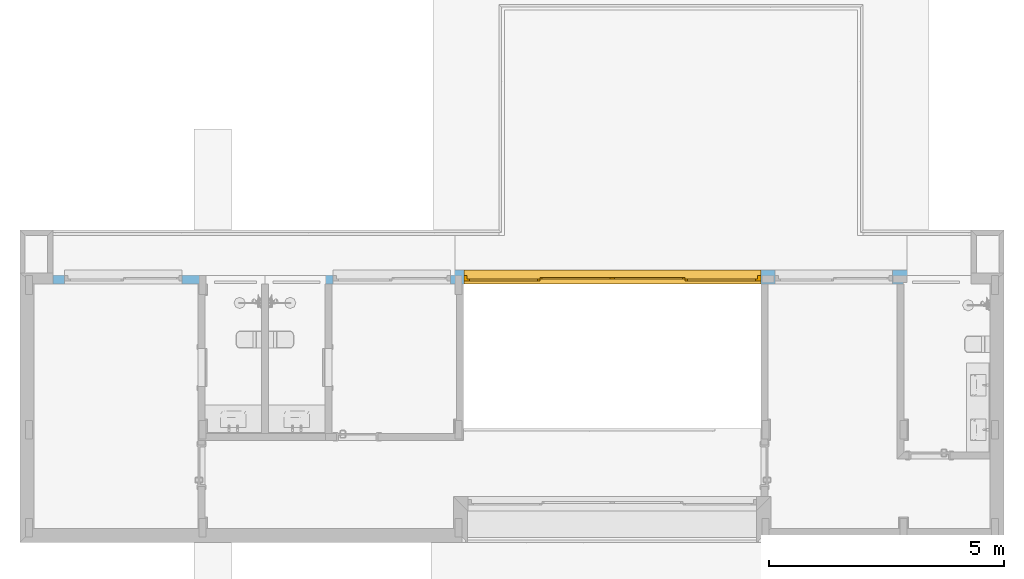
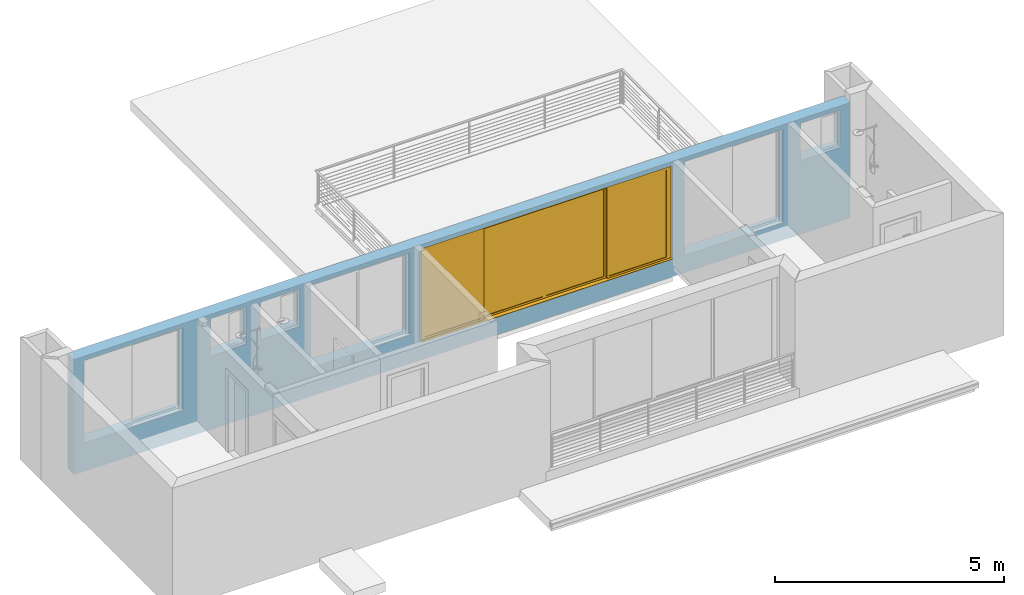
# One storey, part 17 of 24: 1 door, 7 openings, plus 1 element that does not belong to this part.
"""IFC2X3 building model written with IfcOpenShell, lengths in millimetres."""

import ifcopenshell
import ifcopenshell.guid

model = None  # the IFC model being written
_history = None  # IfcOwnerHistory: only IFC2X3 demands one
_inside = {}  # id of a spatial element -> (the spatial element, [elements in it])
_under = {}  # id of a project, library or spatial element -> (it, [spatial elements below it])
_declared = {}  # id of a project -> (the project, [libraries it declares])
_typed = {}  # id of a type object -> (the type object, [elements of that type])
_made_of = {}  # id of a material, layer set ... -> (it, [elements and type objects made of it])


def new_model(schema):
    """Start an empty IFC model of exactly this schema.

    Asked for "IFC4X3", IfcOpenShell would pick the latest addendum, in which some entities
    have other attributes; the version numbers below select the first issue.
    IFC2X3 requires an IfcOwnerHistory on every rooted entity: one is made here for all.
    """
    global model, _history
    if schema == "IFC4X3":
        model = ifcopenshell.file(schema_version=(4, 3, 0, 0))
    else:
        model = ifcopenshell.file(schema=schema)
    _inside.clear()
    _under.clear()
    _declared.clear()
    _typed.clear()
    _made_of.clear()
    _history = None
    if model.schema == "IFC2X3":
        org = make("IfcOrganization", Name="unknown")
        user = make(
            "IfcPersonAndOrganization",
            ThePerson=make("IfcPerson", FamilyName="unknown"),
            TheOrganization=org,
        )
        app = make(
            "IfcApplication",
            ApplicationDeveloper=org,
            Version="unknown",
            ApplicationFullName="unknown",
            ApplicationIdentifier="unknown",
        )
        _history = make(
            "IfcOwnerHistory",
            OwningUser=user,
            OwningApplication=app,
            ChangeAction="ADDED",
            CreationDate=0,
        )
    return model


def make(cls, **values):
    """One entity of the class cls with the attributes given. An attribute that is None is left unset."""
    return model.create_entity(
        cls, **{name: value for name, value in values.items() if value is not None}
    )


def entity(cls, *values):
    """Any entity or typed value of the class cls, its attributes in the order of the schema. None: left unset."""
    e = model.create_entity(cls)
    for i, value in enumerate(values):
        if value is not None:
            e[i] = value
    return e


def rooted(cls, **values):
    """An entity with a GlobalId (a new one), such as an element, a storey or a relation."""
    return make(cls, GlobalId=ifcopenshell.guid.new(), OwnerHistory=_history, **values)


def si_unit(unit_type, name, prefix=None):
    """IfcSIUnit, for example si_unit("LENGTHUNIT", "METRE", prefix="MILLI")."""
    return make("IfcSIUnit", UnitType=unit_type, Prefix=prefix, Name=name)


def converted_unit(unit_type, name, factor, base, dimensions=None, offset=None):
    """IfcConversionBasedUnit, such as the inch: factor (a typed value) times the base unit."""
    return make(
        "IfcConversionBasedUnit"
        if offset is None
        else "IfcConversionBasedUnitWithOffset",
        ConversionOffset=offset,
        Dimensions=None
        if dimensions is None
        else entity("IfcDimensionalExponents", *dimensions),
        UnitType=unit_type,
        Name=name,
        ConversionFactor=make(
            "IfcMeasureWithUnit", ValueComponent=factor, UnitComponent=base
        ),
    )


def money_unit(currency):
    """IfcMonetaryUnit."""
    return make("IfcMonetaryUnit", Currency=currency)


def assignment(units):
    """IfcUnitAssignment: the units of a project."""
    return None if units is None else make("IfcUnitAssignment", Units=units)


def point(xyz):
    """IfcCartesianPoint."""
    return None if xyz is None else make("IfcCartesianPoint", Coordinates=xyz)


def direction(xyz):
    """IfcDirection."""
    return None if xyz is None else make("IfcDirection", DirectionRatios=xyz)


def frame(location, z_axis=None, x_axis=None):
    """IfcAxis2Placement3D, a coordinate frame: its origin and axes. An axis left out is left unset."""
    return make(
        "IfcAxis2Placement3D",
        Location=point(location),
        Axis=direction(z_axis),
        RefDirection=direction(x_axis),
    )


def frame_2d(location, x_axis=None):
    """IfcAxis2Placement2D, a coordinate frame in the plane: its origin and x axis."""
    return make(
        "IfcAxis2Placement2D", Location=point(location), RefDirection=direction(x_axis)
    )


def origin_with_axes():
    """The frame at (0, 0, 0) with the z axis (0, 0, 1) and the x axis (1, 0, 0) written out."""
    return frame((0.0, 0.0, 0.0), z_axis=(0.0, 0.0, 1.0), x_axis=(1.0, 0.0, 0.0))


def origin_2d_with_axis():
    """The frame at (0, 0) in the plane with the x axis (1, 0) written out."""
    return frame_2d((0.0, 0.0), x_axis=(1.0, 0.0))


def place(relative_to, where):
    """IfcLocalPlacement: puts the frame where relative to a parent placement (None: the world)."""
    return make(
        "IfcLocalPlacement", PlacementRelTo=relative_to, RelativePlacement=where
    )


def context(
    kind, dimensions, precision=None, world=None, true_north=None, identifier=None
):
    """IfcGeometricRepresentationContext, for example the 3D "Model" context."""
    return make(
        "IfcGeometricRepresentationContext",
        ContextIdentifier=identifier,
        ContextType=kind,
        CoordinateSpaceDimension=dimensions,
        Precision=precision,
        WorldCoordinateSystem=world,
        TrueNorth=true_north,
    )


def subcontext(parent, identifier, kind, view, scale=None):
    """IfcGeometricRepresentationSubContext, for example "Body" below "Model"."""
    return make(
        "IfcGeometricRepresentationSubContext",
        ContextIdentifier=identifier,
        ContextType=kind,
        ParentContext=parent,
        TargetScale=scale,
        TargetView=view,
    )


def project(units=None, contexts=None):
    """IfcProject with its units and contexts."""
    return rooted(
        "IfcProject",
        Name="project",
        RepresentationContexts=contexts,
        UnitsInContext=assignment(units),
    )


def spatial(cls, under=None, at=None, **own):
    """A site, building, storey or space (cls), placed at a placement, below another one or the project."""
    s = rooted(cls, ObjectPlacement=at, **own)
    if under is not None:
        _under.setdefault(under.id(), (under, []))[1].append(s)
    return s


def polyline(points):
    """IfcPolyline through the points."""
    return make("IfcPolyline", Points=[point(p) for p in points])


def profile(cls, at=None, kind="AREA", **sizes):
    """A parametric profile (cls). Its sizes go by their IFC names, for example OverallWidth=200.0."""
    return make(cls, ProfileType=kind, Position=at, **sizes)


def rectangle(**sizes):
    """IfcRectangleProfileDef."""
    return profile("IfcRectangleProfileDef", **sizes)


def outline(outer, holes=None, kind="AREA"):
    """IfcArbitraryClosedProfileDef: a profile drawn as a closed curve; with holes, ...WithVoids."""
    if holes is None:
        return make("IfcArbitraryClosedProfileDef", ProfileType=kind, OuterCurve=outer)
    return make(
        "IfcArbitraryProfileDefWithVoids",
        ProfileType=kind,
        OuterCurve=outer,
        InnerCurves=holes,
    )


def extrude(swept, where, along, depth):
    """IfcExtrudedAreaSolid: the profile swept, set in the frame where, extruded along a direction by depth."""
    return make(
        "IfcExtrudedAreaSolid",
        SweptArea=swept,
        Position=where,
        ExtrudedDirection=direction(along),
        Depth=depth,
    )


def faces_of(points, faces, orient=None, outer=None):
    """IfcFace entities. A face is a list of loops; a loop is a list of indices into points, from 0.

    orient and outer hold one flag for each loop. By default every Orientation is true, the
    first loop of a face is its IfcFaceOuterBound and the others are IfcFaceBound.
    """
    made = []
    for i, loops in enumerate(faces):
        bounds = []
        for j, loop in enumerate(loops):
            is_outer = j == 0 if outer is None else outer[i][j]
            bounds.append(
                make(
                    "IfcFaceOuterBound" if is_outer else "IfcFaceBound",
                    Bound=make("IfcPolyLoop", Polygon=[points[k] for k in loop]),
                    Orientation=True if orient is None else orient[i][j],
                )
            )
        made.append(make("IfcFace", Bounds=bounds))
    return made


def open_shell(faces, orient=None, outer=None):
    """The faces of one IfcOpenShell. surface_model builds it on its shared points."""
    return ("IfcOpenShell", faces, orient, outer)


def faceted_brep(points, faces, orient=None, outer=None, voids=None):
    """IfcFacetedBrep: a solid bounded by flat faces; with voids (closed shells), ...WithVoids."""
    shared = [point(p) for p in points]
    hull = make("IfcClosedShell", CfsFaces=faces_of(shared, faces, orient, outer))
    if voids is None:
        return make("IfcFacetedBrep", Outer=hull)
    return make(
        "IfcFacetedBrepWithVoids",
        Outer=hull,
        Voids=[
            make(cls, CfsFaces=faces_of(shared, fs, o, b)) for cls, fs, o, b in voids
        ],
    )


def surface_model(cls, points, shells):
    """IfcFaceBasedSurfaceModel or IfcShellBasedSurfaceModel (cls): surfaces that need not close."""
    shared = [point(p) for p in points]
    made = [make(c, CfsFaces=faces_of(shared, fs, o, b)) for c, fs, o, b in shells]
    if cls == "IfcFaceBasedSurfaceModel":
        return make(cls, FbsmFaces=made)
    return make(cls, SbsmBoundary=made)


def shape(context_of_items, identifier, shape_type, items):
    """IfcShapeRepresentation: the items that make up one representation, for example the "Body"."""
    return make(
        "IfcShapeRepresentation",
        ContextOfItems=context_of_items,
        RepresentationIdentifier=identifier,
        RepresentationType=shape_type,
        Items=items,
    )


def material(Name=None, Category=None):
    """IfcMaterial."""
    return make("IfcMaterial", Name=Name, Category=Category)


def material_list(materials):
    """IfcMaterialList."""
    return make("IfcMaterialList", Materials=materials)


def layer(
    of_material, thickness, ventilated=None, Name=None, Category=None, Priority=None
):
    """IfcMaterialLayer: one layer of a wall or slab, of a material (None: an air gap)."""
    return make(
        "IfcMaterialLayer",
        Material=of_material,
        LayerThickness=thickness,
        IsVentilated=ventilated,
        Name=Name,
        Category=Category,
        Priority=Priority,
    )


def layer_set(layers, Name=None):
    """IfcMaterialLayerSet."""
    return make("IfcMaterialLayerSet", MaterialLayers=layers, LayerSetName=Name)


def layer_usage(for_layer_set, set_direction, sense, offset, extent=None):
    """IfcMaterialLayerSetUsage: how a layer set lies in its element."""
    return make(
        "IfcMaterialLayerSetUsage",
        ForLayerSet=for_layer_set,
        LayerSetDirection=set_direction,
        DirectionSense=sense,
        OffsetFromReferenceLine=offset,
        ReferenceExtent=extent,
    )


def made_of(thing, what):
    """Note that an element or type object is made of a material, layer set ...; save() writes the relation."""
    if what is not None:
        _made_of.setdefault(what.id(), (what, []))[1].append(thing)
    return thing


def type_object(cls, material=None, **own):
    """A type object (cls), such as IfcWallType, which elements share."""
    return made_of(rooted(cls, **own), material)


def element(
    cls,
    number,
    at=None,
    inside=None,
    cuts=None,
    type_object=None,
    material=None,
    context=None,
    identifier="Body",
    shape_type=None,
    held_by="IfcProductDefinitionShape",
    body=None,
    shapes=None,
    **own,
):
    """One element of the class cls, such as IfcWall. Its Tag is "e" and its number.

    at: its placement. inside: the storey or other place that contains it. cuts: it is an
    opening in that element (IfcRelVoidsElement). A single representation is given by context,
    identifier, shape_type and body (its items); several are given by shapes. held_by: the class
    of the entity that holds the representations. save() writes the other relations.
    """
    e = rooted(cls, Tag="e%d" % number, ObjectPlacement=at, **own)
    if body is not None:
        shapes = [shape(context, identifier, shape_type, body)]
    if shapes is not None:
        e.Representation = make(held_by, Representations=shapes)
    if inside is not None:
        _inside.setdefault(inside.id(), (inside, []))[1].append(e)
    if cuts is not None:
        rooted(
            "IfcRelVoidsElement", RelatingBuildingElement=cuts, RelatedOpeningElement=e
        )
    if type_object is not None:
        _typed.setdefault(type_object.id(), (type_object, []))[1].append(e)
    return made_of(e, material)


def fill(opening, filler):
    """IfcRelFillsElement: the door or window that sits in an opening."""
    return rooted(
        "IfcRelFillsElement",
        RelatingOpeningElement=opening,
        RelatedBuildingElement=filler,
    )


def aggregate(whole, parts):
    """IfcRelAggregates: a whole, such as a stair, and the parts it consists of."""
    return rooted("IfcRelAggregates", RelatingObject=whole, RelatedObjects=parts)


def save(model, path):
    """Write the relations noted so far, then the file.

    IfcRelAggregates (storeys below a building ...), IfcRelContainedInSpatialStructure (elements
    in a storey), IfcRelDefinesByType, IfcRelAssociatesMaterial and IfcRelDeclares: one each for
    every whole, place, type object, material and project.
    """
    for whole, parts in _under.values():
        aggregate(whole, parts)
    for where, things in _inside.values():
        rooted(
            "IfcRelContainedInSpatialStructure",
            RelatedElements=things,
            RelatingStructure=where,
        )
    for kind, things in _typed.values():
        rooted("IfcRelDefinesByType", RelatedObjects=things, RelatingType=kind)
    for what, things in _made_of.values():
        rooted("IfcRelAssociatesMaterial", RelatedObjects=things, RelatingMaterial=what)
    for by, libraries in _declared.values():
        rooted("IfcRelDeclares", RelatingContext=by, RelatedDefinitions=libraries)
    model.write(path)


model = new_model("IFC2X3")

# Units and contexts
model_context = context("Model", 3, precision=1e-05, world=origin_with_axes(), true_north=direction((0.0, 1.0)))
body_context = subcontext(model_context, "Body", "Model", "MODEL_VIEW")
ifc_project = project(units=[si_unit("LENGTHUNIT", "METRE", prefix="MILLI"), si_unit("AREAUNIT", "SQUARE_METRE"), si_unit("VOLUMEUNIT", "CUBIC_METRE"), converted_unit("PLANEANGLEUNIT", "DEGREE", entity("IfcPlaneAngleMeasure", 0.0174532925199), si_unit("PLANEANGLEUNIT", "RADIAN"), dimensions=[0, 0, 0, 0, 0, 0, 0]), si_unit("SOLIDANGLEUNIT", "STERADIAN"), money_unit("USD"), converted_unit("TIMEUNIT", "Year", entity("IfcTimeMeasure", 31556926.0), si_unit("TIMEUNIT", "SECOND"), dimensions=[0, 0, 0, 0, 0, 0, 0]), si_unit("MASSUNIT", "GRAM"), si_unit("THERMODYNAMICTEMPERATUREUNIT", "DEGREE_CELSIUS"), si_unit("LUMINOUSINTENSITYUNIT", "LUMEN")], contexts=[model_context])

# Site, building, storey
site_placement = place(None, origin_with_axes())
site = spatial("IfcSite", under=ifc_project, at=site_placement, Name="Grove Residential", CompositionType="ELEMENT")
building_placement = place(site_placement, origin_with_axes())
building = spatial("IfcBuilding", under=site, at=building_placement, Name="Building", CompositionType="ELEMENT")
storey_placement = place(building_placement, frame((0.0, 0.0, 3740.0), z_axis=(0.0, 0.0, 1.0), x_axis=(1.0, 0.0, 0.0)))
storey = spatial("IfcBuildingStorey", under=building, at=storey_placement, Name="First Floor", CompositionType="ELEMENT", Elevation=3740.0)

# Wall, openings, door
ifc_material_1 = material(Name="External Render")
ifc_layer_1 = layer(ifc_material_1, 20.0, ventilated="UNKNOWN")
ifc_material_2 = material(Name="Cement Board")
ifc_layer_2 = layer(ifc_material_2, 10.0, ventilated="UNKNOWN")
ifc_material_3 = material(Name="Air Space")
ifc_layer_3 = layer(ifc_material_3, 35.0, ventilated="UNKNOWN")
ifc_material_4 = material(Name="Insulation - Plastic Soft")
ifc_layer_4 = layer(ifc_material_4, 50.0, ventilated="UNKNOWN")
ifc_material_5 = material(Name="Concrete Block")
ifc_layer_5 = layer(ifc_material_5, 150.0, ventilated="UNKNOWN")
ifc_material_6 = material(Name="Air Space - Fixing Zone")
ifc_layer_6 = layer(ifc_material_6, 10.0, ventilated="UNKNOWN")
ifc_material_7 = material(Name="Gypsum Plasterboard")
ifc_layer_7 = layer(ifc_material_7, 12.5, ventilated="UNKNOWN")
ifc_layer_8 = layer(ifc_material_7, 12.5, ventilated="UNKNOWN")
ifc_layer_set = layer_set([ifc_layer_1, ifc_layer_2, ifc_layer_3, ifc_layer_4, ifc_layer_5, ifc_layer_6, ifc_layer_7, ifc_layer_8], Name="EWF - 001")
ifc_layer_usage = layer_usage(ifc_layer_set, "AXIS2", "POSITIVE", -115.0)
wall_type = type_object("IfcWallType", Name="EWF - 001 300", PredefinedType="NOTDEFINED")
wall_placement = place(storey_placement, frame((11550.0, 7035.0, -360.0), z_axis=(0.0, 0.0, 1.0), x_axis=(-1.0, 0.0, 0.0)))
wall = element("IfcWallStandardCase", 1, at=wall_placement, inside=storey, type_object=wall_type, material=ifc_layer_usage, Name="SW - 004", context=body_context, shape_type="SweptSolid", body=[
    extrude(outline(polyline([(0.0, -115.0), (19550.0, -115.0), (19550.0, 185.0), (0.0, 185.0), (0.0, -115.0)])), origin_with_axes(), (0.0, 0.0, 1.0), 3070.0),
])
opening_1_placement = place(wall_placement, frame((750.0, 0.0, 1960.0), z_axis=(0.0, 0.0, 1.0), x_axis=(1.0, 0.0, 0.0)))
element("IfcOpeningElement", 2, at=opening_1_placement, cuts=wall, Name="W.03", context=body_context, shape_type="SweptSolid", body=[
    extrude(rectangle(XDim=1000.0, YDim=1000.0, at=origin_2d_with_axis()), frame((0.0, 120.0, 500.0), z_axis=(0.0, 1.0, 0.0), x_axis=(1.0, 0.0, 0.0)), (0.0, 0.0, -1.0), 535.0),
    extrude(rectangle(XDim=1000.0, YDim=1000.0, at=origin_2d_with_axis()), frame((0.0, 120.0, 500.0), z_axis=(0.0, -1.0, 0.0), x_axis=(1.0, 0.0, 0.0)), (0.0, 0.0, -1.0), 365.0),
])
opening_2_placement = place(wall_placement, frame((14360.0, 0.0, 1960.0), z_axis=(0.0, 0.0, 1.0), x_axis=(1.0, 0.0, 0.0)))
element("IfcOpeningElement", 3, at=opening_2_placement, cuts=wall, Name="W.03", context=body_context, shape_type="SweptSolid", body=[
    extrude(rectangle(XDim=1000.0, YDim=1000.0, at=origin_2d_with_axis()), frame((0.0, 120.0, 500.0), z_axis=(0.0, 1.0, 0.0), x_axis=(1.0, 0.0, 0.0)), (0.0, 0.0, -1.0), 535.0),
    extrude(rectangle(XDim=1000.0, YDim=1000.0, at=origin_2d_with_axis()), frame((0.0, 120.0, 500.0), z_axis=(0.0, -1.0, 0.0), x_axis=(1.0, 0.0, 0.0)), (0.0, 0.0, -1.0), 365.0),
])
opening_3_placement = place(wall_placement, frame((15660.0, 0.0, 1960.0), z_axis=(0.0, 0.0, 1.0), x_axis=(1.0, 0.0, 0.0)))
element("IfcOpeningElement", 4, at=opening_3_placement, cuts=wall, Name="W.02", context=body_context, shape_type="SweptSolid", body=[
    extrude(rectangle(XDim=900.0, YDim=1000.0, at=origin_2d_with_axis()), frame((0.0, 120.0, 500.0), z_axis=(0.0, 1.0, 0.0), x_axis=(1.0, 0.0, 0.0)), (0.0, 0.0, -1.0), 535.0),
    extrude(rectangle(XDim=900.0, YDim=1000.0, at=origin_2d_with_axis()), frame((0.0, 120.0, 500.0), z_axis=(0.0, -1.0, 0.0), x_axis=(1.0, 0.0, 0.0)), (0.0, 0.0, -1.0), 365.0),
])
opening_4_placement = place(wall_placement, frame((18050.0, 0.0, 760.0), z_axis=(0.0, 0.0, 1.0), x_axis=(1.0, 0.0, 0.0)))
element("IfcOpeningElement", 5, at=opening_4_placement, cuts=wall, Name="D.06", context=body_context, shape_type="SweptSolid", body=[
    extrude(rectangle(XDim=2500.0, YDim=2200.0, at=origin_2d_with_axis()), frame((0.0, 5.0, 1100.0), z_axis=(0.0, -1.0, 0.0), x_axis=(1.0, 0.0, 0.0)), (0.0, 0.0, -1.0), 480.0),
    extrude(rectangle(XDim=2500.0, YDim=2200.0, at=origin_2d_with_axis()), frame((0.0, 5.0, 1100.0), z_axis=(0.0, 1.0, 0.0), x_axis=(1.0, 0.0, 0.0)), (0.0, 0.0, -1.0), 420.0),
])
opening_5_placement = place(wall_placement, frame((12335.0000067, 0.0, 760.0), z_axis=(0.0, 0.0, 1.0), x_axis=(1.0, 0.0, 0.0)))
element("IfcOpeningElement", 6, at=opening_5_placement, cuts=wall, Name="D.06", context=body_context, shape_type="SweptSolid", body=[
    extrude(rectangle(XDim=2500.0, YDim=2200.0, at=origin_2d_with_axis()), frame((0.0, 5.0, 1100.0), z_axis=(0.0, -1.0, 0.0), x_axis=(1.0, 0.0, 0.0)), (0.0, 0.0, -1.0), 480.0),
    extrude(rectangle(XDim=2500.0, YDim=2200.0, at=origin_2d_with_axis()), frame((0.0, 5.0, 1100.0), z_axis=(0.0, 1.0, 0.0), x_axis=(1.0, 0.0, 0.0)), (0.0, 0.0, -1.0), 420.0),
])
opening_6_placement = place(wall_placement, frame((2925.0, 0.0, 460.0), z_axis=(0.0, 0.0, 1.0), x_axis=(1.0, 0.0, 0.0)))
element("IfcOpeningElement", 7, at=opening_6_placement, cuts=wall, Name="D.06", context=body_context, shape_type="SweptSolid", body=[
    extrude(rectangle(XDim=2500.0, YDim=2500.0, at=origin_2d_with_axis()), frame((0.0, 5.0, 1250.0), z_axis=(0.0, -1.0, 0.0), x_axis=(1.0, 0.0, 0.0)), (0.0, 0.0, -1.0), 480.0),
    extrude(rectangle(XDim=2500.0, YDim=2500.0, at=origin_2d_with_axis()), frame((0.0, 5.0, 1250.0), z_axis=(0.0, 1.0, 0.0), x_axis=(1.0, 0.0, 0.0)), (0.0, 0.0, -1.0), 420.0),
])
opening_7_placement = place(wall_placement, frame((7637.5, 0.0, 460.0), z_axis=(0.0, 0.0, 1.0), x_axis=(1.0, 0.0, 0.0)))
opening_7 = element("IfcOpeningElement", 8, at=opening_7_placement, cuts=wall, Name="D.13", context=body_context, shape_type="SweptSolid", body=[
    extrude(rectangle(XDim=6325.0, YDim=2500.0, at=origin_2d_with_axis()), frame((0.0, 5.0, 1250.0), z_axis=(0.0, -1.0, 0.0), x_axis=(1.0, 0.0, 0.0)), (0.0, 0.0, -1.0), 480.0),
    extrude(rectangle(XDim=6325.0, YDim=2500.0, at=origin_2d_with_axis()), frame((0.0, 5.0, 1250.0), z_axis=(0.0, 1.0, 0.0), x_axis=(1.0, 0.0, 0.0)), (0.0, 0.0, -1.0), 420.0),
])
ifc_material_8 = material(Name="Background")
ifc_material_9 = material(Name="Air Space")
ifc_material_10 = material(Name="Foreground")
ifc_material_11 = material(Name="Rigid Insulation")
ifc_material_12 = material(Name="Batt Insulation")
ifc_material_list = material_list([ifc_material_8, ifc_material_9, ifc_material_10, ifc_material_8, ifc_material_8, ifc_material_8, ifc_material_8, ifc_material_11, ifc_material_8, ifc_material_8, ifc_material_8, ifc_material_8, ifc_material_9, ifc_material_8, ifc_material_12, ifc_material_8])
door_style = type_object("IfcDoorStyle", Name="Sliding Door 21", ConstructionType="NOTDEFINED", OperationType="USERDEFINED", ParameterTakesPrecedence=False, Sizeable=False)
door_placement = place(opening_7_placement, frame((-3162.5, 0.0, 0.0), z_axis=(0.0, 0.0, 1.0), x_axis=(1.0, 0.0, 0.0)))
door = element("IfcDoor", 9, at=door_placement, inside=storey, type_object=door_style, material=ifc_material_list, Name="D.13", OverallHeight=2500.0, OverallWidth=6325.0, context=body_context, shape_type="SurfaceModel", body=[
    faceted_brep([(0.0, 5.0, 0.0), (0.0, -115.01, 0.0), (0.0, -115.01, 12.0), (0.0, 5.0, 12.0), (70.0, 5.0, 0.0), (70.0, 120.0, 0.0), (0.0, 120.0, 0.0), (0.0, 185.0, 0.0), (0.0, 185.01, 0.0), (6325.0, 185.01, 0.0), (6325.0, 185.0, 0.0), (6325.0, 120.0, 0.0), (6255.0, 120.0, 0.0), (6255.0, 5.0, 0.0), (6325.0, 5.0, 0.0), (6325.0, -115.0, 0.0), (6325.0, -115.0, 12.0), (6325.0, 5.0, 12.0), (6255.0, 5.0, 12.0), (6255.0, 120.0, 12.0), (6325.0, 120.0, 12.0), (6325.0, 185.0, 12.0), (6325.0, 185.01, 12.0), (0.0, 185.01, 12.0), (0.0, 185.0, 12.0), (0.0, 120.0, 12.0), (70.0, 120.0, 12.0), (70.0, 5.0, 12.0)], [[[0, 1, 2, 3]], [[0, 4, 5, 6, 7, 8, 9, 10, 11, 12, 13, 14, 15, 1]], [[1, 15, 16, 2]], [[3, 2, 16, 17, 18, 19, 20, 21, 22, 23, 24, 25, 26, 27]], [[4, 0, 3, 27]], [[5, 4, 27, 26]], [[6, 5, 26, 25]], [[7, 6, 25, 24]], [[8, 7, 24, 23]], [[9, 8, 23, 22]], [[10, 9, 22, 21]], [[11, 10, 21, 20]], [[12, 11, 20, 19]], [[13, 12, 19, 18]], [[14, 13, 18, 17]], [[15, 14, 17, 16]]]),
    faceted_brep([(0.0, 120.0, 0.0), (70.0, 120.0, 0.0), (70.0, 5.0, 0.0), (0.0, 5.0, 0.0), (0.0, 120.0, 2430.0), (70.0, 120.0, 2430.0), (70.0, 5.0, 2430.0), (0.0, 5.0, 2430.0)], [[[0, 1, 2, 3]], [[0, 4, 5, 1]], [[1, 5, 6, 2]], [[3, 2, 6, 7]], [[4, 0, 3, 7]], [[5, 4, 7, 6]]]),
    faceted_brep([(6325.0, 120.0, 0.0), (6325.0, 120.0, 2430.0), (6325.0, 5.0, 2430.0), (6325.0, 5.0, 0.0), (6255.0, 120.0, 0.0), (6255.0, 120.0, 2430.0), (6255.0, 5.0, 2430.0), (6255.0, 5.0, 0.0)], [[[0, 1, 2, 3]], [[0, 4, 5, 1]], [[1, 5, 6, 2]], [[3, 2, 6, 7]], [[4, 0, 3, 7]], [[5, 4, 7, 6]]]),
    faceted_brep([(0.0, 120.0, 2500.0), (0.0, 120.0, 2430.0), (0.0, 5.0, 2430.0), (0.0, 5.0, 2500.0), (6325.0, 120.0, 2500.0), (6325.0, 120.0, 2430.0), (6255.0, 120.0, 2430.0), (70.0, 120.0, 2430.0), (70.0, 5.0, 2430.0), (6255.0, 5.0, 2430.0), (6325.0, 5.0, 2430.0), (6325.0, 5.0, 2500.0)], [[[0, 1, 2, 3]], [[0, 4, 5, 6, 7, 1]], [[1, 7, 8, 2]], [[3, 2, 8, 9, 10, 11]], [[4, 0, 3, 11]], [[5, 4, 11, 10]], [[6, 5, 10, 9]], [[7, 6, 9, 8]]]),
    faceted_brep([(1616.25, 120.0, 62.0), (1616.25, 80.0, 62.0), (1566.25, 80.0, 62.0), (1566.25, 120.0, 62.0), (1616.25, 120.0, 2380.0), (1616.25, 80.0, 2380.0), (1566.25, 80.0, 2380.0), (1566.25, 120.0, 2380.0)], [[[0, 1, 2, 3]], [[4, 5, 1, 0]], [[1, 5, 6, 2]], [[3, 2, 6, 7]], [[0, 3, 7, 4]], [[7, 6, 5, 4]]]),
    faceted_brep([(70.0, 120.0, 62.0), (70.0, 80.0, 62.0), (70.0, 80.0, 2380.0), (70.0, 120.0, 2380.0), (120.0, 120.0, 62.0), (120.0, 80.0, 62.0), (120.0, 80.0, 2380.0), (120.0, 120.0, 2380.0)], [[[0, 1, 2, 3]], [[4, 5, 1, 0]], [[1, 5, 6, 2]], [[3, 2, 6, 7]], [[0, 3, 7, 4]], [[7, 6, 5, 4]]]),
    faceted_brep([(1616.25, 120.0, 12.0), (1616.25, 80.0, 12.0), (70.0, 80.0, 12.0), (70.0, 120.0, 12.0), (1616.25, 120.0, 62.0), (1616.25, 80.0, 62.0), (1566.25, 80.0, 62.0), (120.0, 80.0, 62.0), (70.0, 80.0, 62.0), (70.0, 120.0, 62.0), (120.0, 120.0, 62.0), (1566.25, 120.0, 62.0)], [[[0, 1, 2, 3]], [[4, 5, 1, 0]], [[1, 5, 6, 7, 8, 2]], [[3, 2, 8, 9]], [[0, 3, 9, 10, 11, 4]], [[11, 6, 5, 4]], [[10, 7, 6, 11]], [[9, 8, 7, 10]]]),
    faceted_brep([(1616.25, 120.0, 2430.0), (1616.25, 80.0, 2430.0), (1616.25, 80.0, 2380.0), (1616.25, 120.0, 2380.0), (70.0, 120.0, 2430.0), (70.0, 80.0, 2430.0), (70.0, 80.0, 2380.0), (120.0, 80.0, 2380.0), (1566.25, 80.0, 2380.0), (1566.25, 120.0, 2380.0), (120.0, 120.0, 2380.0), (70.0, 120.0, 2380.0)], [[[0, 1, 2, 3]], [[4, 5, 1, 0]], [[1, 5, 6, 7, 8, 2]], [[3, 2, 8, 9]], [[0, 3, 9, 10, 11, 4]], [[11, 6, 5, 4]], [[10, 7, 6, 11]], [[9, 8, 7, 10]]]),
    surface_model("IfcShellBasedSurfaceModel", [(1566.25, 106.0, 62.0), (120.0, 106.0, 62.0), (120.0, 106.0, 2380.0), (1566.25, 106.0, 2380.0)], [open_shell([[[0, 1, 2, 3]]])]),
    surface_model("IfcShellBasedSurfaceModel", [(1566.25, 94.0, 62.0), (1566.25, 94.0, 2380.0), (120.0, 94.0, 2380.0), (120.0, 94.0, 62.0)], [open_shell([[[0, 1, 2, 3]]])]),
    faceted_brep([(1616.25, 80.0, 62.0), (1666.25, 80.0, 62.0), (1666.25, 40.0, 62.0), (1616.25, 40.0, 62.0), (1616.25, 80.0, 2380.0), (1666.25, 80.0, 2380.0), (1666.25, 40.0, 2380.0), (1616.25, 40.0, 2380.0)], [[[0, 1, 2, 3]], [[0, 4, 5, 1]], [[1, 5, 6, 2]], [[3, 2, 6, 7]], [[4, 0, 3, 7]], [[5, 4, 7, 6]]]),
    faceted_brep([(3162.5, 80.0, 62.0), (3162.5, 80.0, 2380.0), (3162.5, 40.0, 2380.0), (3162.5, 40.0, 62.0), (3112.5, 80.0, 62.0), (3112.5, 80.0, 2380.0), (3112.5, 40.0, 2380.0), (3112.5, 40.0, 62.0)], [[[0, 1, 2, 3]], [[0, 4, 5, 1]], [[1, 5, 6, 2]], [[3, 2, 6, 7]], [[4, 0, 3, 7]], [[5, 4, 7, 6]]]),
    faceted_brep([(1616.25, 80.0, 12.0), (3162.5, 80.0, 12.0), (3162.5, 40.0, 12.0), (1616.25, 40.0, 12.0), (1616.25, 80.0, 62.0), (1666.25, 80.0, 62.0), (3112.5, 80.0, 62.0), (3162.5, 80.0, 62.0), (3162.5, 40.0, 62.0), (3112.5, 40.0, 62.0), (1666.25, 40.0, 62.0), (1616.25, 40.0, 62.0)], [[[0, 1, 2, 3]], [[0, 4, 5, 6, 7, 1]], [[1, 7, 8, 2]], [[3, 2, 8, 9, 10, 11]], [[4, 0, 3, 11]], [[5, 4, 11, 10]], [[6, 5, 10, 9]], [[7, 6, 9, 8]]]),
    faceted_brep([(1616.25, 80.0, 2430.0), (1616.25, 80.0, 2380.0), (1616.25, 40.0, 2380.0), (1616.25, 40.0, 2430.0), (3162.5, 80.0, 2430.0), (3162.5, 80.0, 2380.0), (3112.5, 80.0, 2380.0), (1666.25, 80.0, 2380.0), (1666.25, 40.0, 2380.0), (3112.5, 40.0, 2380.0), (3162.5, 40.0, 2380.0), (3162.5, 40.0, 2430.0)], [[[0, 1, 2, 3]], [[0, 4, 5, 6, 7, 1]], [[1, 7, 8, 2]], [[3, 2, 8, 9, 10, 11]], [[4, 0, 3, 11]], [[5, 4, 11, 10]], [[6, 5, 10, 9]], [[7, 6, 9, 8]]]),
    surface_model("IfcShellBasedSurfaceModel", [(1666.25, 66.0, 62.0), (1666.25, 66.0, 2380.0), (3112.5, 66.0, 2380.0), (3112.5, 66.0, 62.0)], [open_shell([[[0, 1, 2, 3]]])]),
    surface_model("IfcShellBasedSurfaceModel", [(1666.25, 54.0, 62.0), (3112.5, 54.0, 62.0), (3112.5, 54.0, 2380.0), (1666.25, 54.0, 2380.0)], [open_shell([[[0, 1, 2, 3]]])]),
    faceted_brep([(4708.75, 120.0, 62.0), (4758.75, 120.0, 62.0), (4758.75, 80.0, 62.0), (4708.75, 80.0, 62.0), (4708.75, 120.0, 2380.0), (4758.75, 120.0, 2380.0), (4758.75, 80.0, 2380.0), (4708.75, 80.0, 2380.0)], [[[0, 1, 2, 3]], [[0, 4, 5, 1]], [[1, 5, 6, 2]], [[3, 2, 6, 7]], [[4, 0, 3, 7]], [[5, 4, 7, 6]]]),
    faceted_brep([(6255.0, 120.0, 62.0), (6255.0, 120.0, 2380.0), (6255.0, 80.0, 2380.0), (6255.0, 80.0, 62.0), (6205.0, 120.0, 62.0), (6205.0, 120.0, 2380.0), (6205.0, 80.0, 2380.0), (6205.0, 80.0, 62.0)], [[[0, 1, 2, 3]], [[0, 4, 5, 1]], [[1, 5, 6, 2]], [[3, 2, 6, 7]], [[4, 0, 3, 7]], [[5, 4, 7, 6]]]),
    faceted_brep([(4708.75, 120.0, 12.0), (6255.0, 120.0, 12.0), (6255.0, 80.0, 12.0), (4708.75, 80.0, 12.0), (4708.75, 120.0, 62.0), (4758.75, 120.0, 62.0), (6205.0, 120.0, 62.0), (6255.0, 120.0, 62.0), (6255.0, 80.0, 62.0), (6205.0, 80.0, 62.0), (4758.75, 80.0, 62.0), (4708.75, 80.0, 62.0)], [[[0, 1, 2, 3]], [[0, 4, 5, 6, 7, 1]], [[1, 7, 8, 2]], [[3, 2, 8, 9, 10, 11]], [[4, 0, 3, 11]], [[5, 4, 11, 10]], [[6, 5, 10, 9]], [[7, 6, 9, 8]]]),
    faceted_brep([(4708.75, 120.0, 2430.0), (4708.75, 120.0, 2380.0), (4708.75, 80.0, 2380.0), (4708.75, 80.0, 2430.0), (6255.0, 120.0, 2430.0), (6255.0, 120.0, 2380.0), (6205.0, 120.0, 2380.0), (4758.75, 120.0, 2380.0), (4758.75, 80.0, 2380.0), (6205.0, 80.0, 2380.0), (6255.0, 80.0, 2380.0), (6255.0, 80.0, 2430.0)], [[[0, 1, 2, 3]], [[0, 4, 5, 6, 7, 1]], [[1, 7, 8, 2]], [[3, 2, 8, 9, 10, 11]], [[4, 0, 3, 11]], [[5, 4, 11, 10]], [[6, 5, 10, 9]], [[7, 6, 9, 8]]]),
    surface_model("IfcShellBasedSurfaceModel", [(4758.75, 106.0, 62.0), (4758.75, 106.0, 2380.0), (6205.0, 106.0, 2380.0), (6205.0, 106.0, 62.0)], [open_shell([[[0, 1, 2, 3]]])]),
    surface_model("IfcShellBasedSurfaceModel", [(4758.75, 94.0, 62.0), (6205.0, 94.0, 62.0), (6205.0, 94.0, 2380.0), (4758.75, 94.0, 2380.0)], [open_shell([[[0, 1, 2, 3]]])]),
    faceted_brep([(4708.75, 80.0, 62.0), (4708.75, 40.0, 62.0), (4658.75, 40.0, 62.0), (4658.75, 80.0, 62.0), (4708.75, 80.0, 2380.0), (4708.75, 40.0, 2380.0), (4658.75, 40.0, 2380.0), (4658.75, 80.0, 2380.0)], [[[0, 1, 2, 3]], [[4, 5, 1, 0]], [[1, 5, 6, 2]], [[3, 2, 6, 7]], [[0, 3, 7, 4]], [[7, 6, 5, 4]]]),
    faceted_brep([(3162.5, 80.0, 62.0), (3162.5, 40.0, 62.0), (3162.5, 40.0, 2380.0), (3162.5, 80.0, 2380.0), (3212.5, 80.0, 62.0), (3212.5, 40.0, 62.0), (3212.5, 40.0, 2380.0), (3212.5, 80.0, 2380.0)], [[[0, 1, 2, 3]], [[4, 5, 1, 0]], [[1, 5, 6, 2]], [[3, 2, 6, 7]], [[0, 3, 7, 4]], [[7, 6, 5, 4]]]),
    faceted_brep([(4708.75, 80.0, 12.0), (4708.75, 40.0, 12.0), (3162.5, 40.0, 12.0), (3162.5, 80.0, 12.0), (4708.75, 80.0, 62.0), (4708.75, 40.0, 62.0), (4658.75, 40.0, 62.0), (3212.5, 40.0, 62.0), (3162.5, 40.0, 62.0), (3162.5, 80.0, 62.0), (3212.5, 80.0, 62.0), (4658.75, 80.0, 62.0)], [[[0, 1, 2, 3]], [[4, 5, 1, 0]], [[1, 5, 6, 7, 8, 2]], [[3, 2, 8, 9]], [[0, 3, 9, 10, 11, 4]], [[11, 6, 5, 4]], [[10, 7, 6, 11]], [[9, 8, 7, 10]]]),
    faceted_brep([(4708.75, 80.0, 2430.0), (4708.75, 40.0, 2430.0), (4708.75, 40.0, 2380.0), (4708.75, 80.0, 2380.0), (3162.5, 80.0, 2430.0), (3162.5, 40.0, 2430.0), (3162.5, 40.0, 2380.0), (3212.5, 40.0, 2380.0), (4658.75, 40.0, 2380.0), (4658.75, 80.0, 2380.0), (3212.5, 80.0, 2380.0), (3162.5, 80.0, 2380.0)], [[[0, 1, 2, 3]], [[4, 5, 1, 0]], [[1, 5, 6, 7, 8, 2]], [[3, 2, 8, 9]], [[0, 3, 9, 10, 11, 4]], [[11, 6, 5, 4]], [[10, 7, 6, 11]], [[9, 8, 7, 10]]]),
    surface_model("IfcShellBasedSurfaceModel", [(4658.75, 66.0, 62.0), (3212.5, 66.0, 62.0), (3212.5, 66.0, 2380.0), (4658.75, 66.0, 2380.0)], [open_shell([[[0, 1, 2, 3]]])]),
    surface_model("IfcShellBasedSurfaceModel", [(4658.75, 54.0, 62.0), (4658.75, 54.0, 2380.0), (3212.5, 54.0, 2380.0), (3212.5, 54.0, 62.0)], [open_shell([[[0, 1, 2, 3]]])]),
])
fill(opening_7, door)

save(model, "model.ifc")
